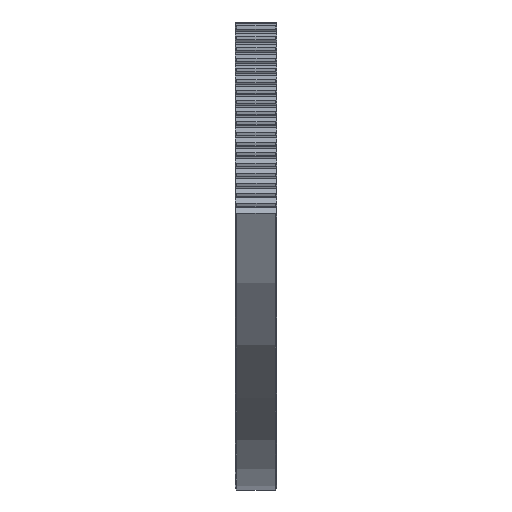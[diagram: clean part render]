
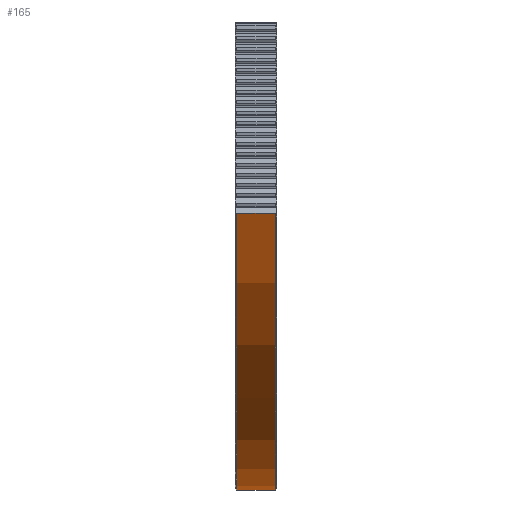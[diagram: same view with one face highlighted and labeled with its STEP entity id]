
A CAD part, left-side view. The second image highlights one B-rep face of the part: STEP entity #165.
In plain terms, the highlighted cylindrical face has radius 139 mm (diameter 278 mm), a partial arc.
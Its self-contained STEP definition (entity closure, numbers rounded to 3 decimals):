
#165 = ADVANCED_FACE( '', ( #428 ), #429, .T. );
#428 = FACE_OUTER_BOUND( '', #742, .T. );
#429 = CYLINDRICAL_SURFACE( '', #743, 139. );
#742 = EDGE_LOOP( '', ( #1688, #1689, #1690, #1691 ) );
#743 = AXIS2_PLACEMENT_3D( '', #1692, #1693, #1694 );
#1688 = ORIENTED_EDGE( '', *, *, #2410, .F. );
#1689 = ORIENTED_EDGE( '', *, *, #2260, .T. );
#1690 = ORIENTED_EDGE( '', *, *, #2411, .T. );
#1691 = ORIENTED_EDGE( '', *, *, #2060, .T. );
#1692 = CARTESIAN_POINT( '', ( 0., 0., 0. ) );
#1693 = DIRECTION( '', ( 0., 1., 0. ) );
#1694 = DIRECTION( '', ( 0., 0., -1. ) );
#2060 = EDGE_CURVE( '', #2459, #2457, #2460, .T. );
#2260 = EDGE_CURVE( '', #2844, #2842, #2845, .F. );
#2410 = EDGE_CURVE( '', #2844, #2457, #3068, .T. );
#2411 = EDGE_CURVE( '', #2842, #2459, #3069, .T. );
#2457 = VERTEX_POINT( '', #3132 );
#2459 = VERTEX_POINT( '', #3137 );
#2460 = LINE( '', #3138, #3139 );
#2842 = VERTEX_POINT( '', #3636 );
#2844 = VERTEX_POINT( '', #3641 );
#2845 = LINE( '', #3642, #3643 );
#3068 = CIRCLE( '', #4146, 139. );
#3069 = CIRCLE( '', #4147, 139. );
#3132 = CARTESIAN_POINT( '', ( 138.992, 0.5, -1.5 ) );
#3137 = CARTESIAN_POINT( '', ( 138.992, 11.75, -1.5 ) );
#3138 = CARTESIAN_POINT( '', ( 138.992, 0., -1.5 ) );
#3139 = VECTOR( '', #4183, 1000. );
#3636 = CARTESIAN_POINT( '', ( -126.485, 11.75, -57.642 ) );
#3641 = CARTESIAN_POINT( '', ( -126.485, 0.5, -57.642 ) );
#3642 = CARTESIAN_POINT( '', ( -126.485, 0., -57.642 ) );
#3643 = VECTOR( '', #4584, 1000. );
#4146 = AXIS2_PLACEMENT_3D( '', #4682, #4683, #4684 );
#4147 = AXIS2_PLACEMENT_3D( '', #4685, #4686, #4687 );
#4183 = DIRECTION( '', ( 0., -1., 0. ) );
#4584 = DIRECTION( '', ( 0., -1., 0. ) );
#4682 = CARTESIAN_POINT( '', ( 0., 0.5, 0. ) );
#4683 = DIRECTION( '', ( 0., -1., 0. ) );
#4684 = DIRECTION( '', ( 0., 0., -1. ) );
#4685 = CARTESIAN_POINT( '', ( 0., 11.75, 0. ) );
#4686 = DIRECTION( '', ( 0., -1., 0. ) );
#4687 = DIRECTION( '', ( 0., 0., -1. ) );
